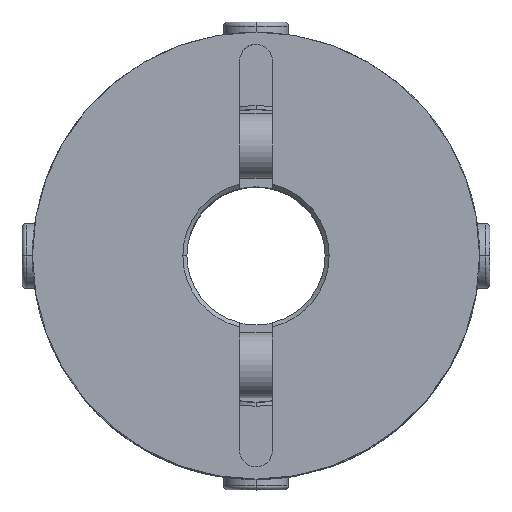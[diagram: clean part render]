
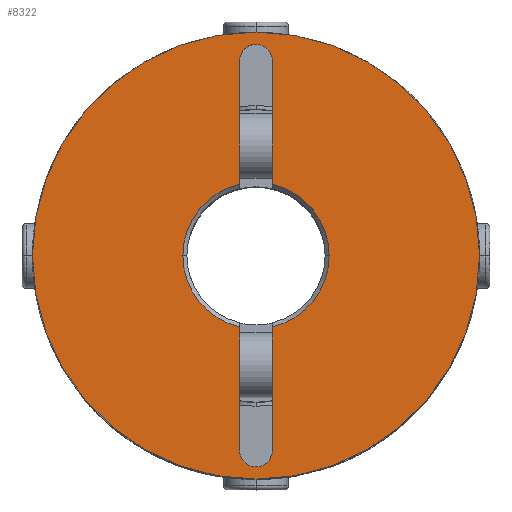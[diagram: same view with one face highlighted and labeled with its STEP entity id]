
A CAD part, top view. The second image highlights one B-rep face of the part: STEP entity #8322.
In plain terms, the highlighted planar face has unit normal (0, 0, 1).
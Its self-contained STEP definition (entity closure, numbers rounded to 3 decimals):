
#632=CARTESIAN_POINT('',(9.,0.,29.0));
#633=VERTEX_POINT('',#632);
#649=CARTESIAN_POINT('',(2.,-8.775,29.0));
#650=VERTEX_POINT('',#649);
#664=CARTESIAN_POINT('',(0.,0.0,29.0));
#665=DIRECTION('',(0.0,0.0,1.0));
#666=DIRECTION('',(-1.0,0.0,0.0));
#667=AXIS2_PLACEMENT_3D('',#664,#665,#666);
#668=CIRCLE('',#667,9.0);
#669=EDGE_CURVE('',#650,#633,#668,.T.);
#831=CARTESIAN_POINT('',(-9.,0.,29.0));
#832=VERTEX_POINT('',#831);
#839=CARTESIAN_POINT('',(-2.,-8.775,29.0));
#840=VERTEX_POINT('',#839);
#841=CARTESIAN_POINT('',(0.,0.0,29.0));
#842=DIRECTION('',(0.0,0.0,1.0));
#843=DIRECTION('',(-1.0,0.0,0.0));
#844=AXIS2_PLACEMENT_3D('',#841,#842,#843);
#845=CIRCLE('',#844,9.0);
#846=EDGE_CURVE('',#832,#840,#845,.T.);
#872=CARTESIAN_POINT('',(-1.414,25.414,29.0));
#873=VERTEX_POINT('',#872);
#889=CARTESIAN_POINT('',(2.,24.,29.0));
#890=VERTEX_POINT('',#889);
#897=CARTESIAN_POINT('',(0.,24.,29.0));
#898=DIRECTION('',(0.0,0.0,1.));
#899=DIRECTION('',(0.707,0.707,0.0));
#900=AXIS2_PLACEMENT_3D('',#897,#898,#899);
#901=CIRCLE('',#900,2.);
#902=EDGE_CURVE('',#890,#873,#901,.T.);
#914=CARTESIAN_POINT('',(1.414,-25.414,29.0));
#915=VERTEX_POINT('',#914);
#931=CARTESIAN_POINT('',(-2.,-24.,29.0));
#932=VERTEX_POINT('',#931);
#939=CARTESIAN_POINT('',(0.,-24.,29.0));
#940=DIRECTION('',(0.0,0.0,1.0));
#941=DIRECTION('',(-0.707,-0.707,0.0));
#942=AXIS2_PLACEMENT_3D('',#939,#940,#941);
#943=CIRCLE('',#942,2.0);
#944=EDGE_CURVE('',#932,#915,#943,.T.);
#1499=CARTESIAN_POINT('',(-27.5,0.,29.0));
#1500=VERTEX_POINT('',#1499);
#1507=CARTESIAN_POINT('',(27.5,0.0,29.0));
#1508=VERTEX_POINT('',#1507);
#1509=CARTESIAN_POINT('',(0.,0.0,29.0));
#1510=DIRECTION('',(0.0,0.0,-1.0));
#1511=DIRECTION('',(1.0,0.0,0.0));
#1512=AXIS2_PLACEMENT_3D('',#1509,#1510,#1511);
#1513=CIRCLE('',#1512,27.5);
#1514=EDGE_CURVE('',#1500,#1508,#1513,.T.);
#7523=CARTESIAN_POINT('',(0.,0.0,29.0));
#7524=DIRECTION('',(0.0,0.0,-1.0));
#7525=DIRECTION('',(1.0,0.0,0.0));
#7526=AXIS2_PLACEMENT_3D('',#7523,#7524,#7525);
#7527=CIRCLE('',#7526,27.5);
#7528=EDGE_CURVE('',#1508,#1500,#7527,.T.);
#8081=CARTESIAN_POINT('',(2.,-24.,29.0));
#8082=VERTEX_POINT('',#8081);
#8083=CARTESIAN_POINT('',(0.,-24.,29.0));
#8084=DIRECTION('',(0.0,0.0,1.0));
#8085=DIRECTION('',(-0.707,-0.707,0.0));
#8086=AXIS2_PLACEMENT_3D('',#8083,#8084,#8085);
#8087=CIRCLE('',#8086,2.0);
#8088=EDGE_CURVE('',#915,#8082,#8087,.T.);
#8106=CARTESIAN_POINT('',(2.,-8.775,29.0));
#8107=DIRECTION('',(0.0,-1.0,0.0));
#8108=VECTOR('',#8107,15.225);
#8109=LINE('',#8106,#8108);
#8110=EDGE_CURVE('',#650,#8082,#8109,.T.);
#8129=CARTESIAN_POINT('',(-2.,24.,29.0));
#8130=VERTEX_POINT('',#8129);
#8131=CARTESIAN_POINT('',(0.,24.,29.0));
#8132=DIRECTION('',(0.0,0.0,1.));
#8133=DIRECTION('',(0.707,0.707,0.0));
#8134=AXIS2_PLACEMENT_3D('',#8131,#8132,#8133);
#8135=CIRCLE('',#8134,2.);
#8136=EDGE_CURVE('',#873,#8130,#8135,.T.);
#8154=CARTESIAN_POINT('',(-2.,8.775,29.0));
#8155=VERTEX_POINT('',#8154);
#8156=CARTESIAN_POINT('',(-2.,8.775,29.0));
#8157=DIRECTION('',(0.0,1.0,0.0));
#8158=VECTOR('',#8157,15.225);
#8159=LINE('',#8156,#8158);
#8160=EDGE_CURVE('',#8155,#8130,#8159,.T.);
#8236=CARTESIAN_POINT('',(2.,8.775,29.0));
#8237=VERTEX_POINT('',#8236);
#8251=CARTESIAN_POINT('',(2.,24.,29.0));
#8252=DIRECTION('',(0.0,-1.0,0.0));
#8253=VECTOR('',#8252,15.225);
#8254=LINE('',#8251,#8253);
#8255=EDGE_CURVE('',#890,#8237,#8254,.T.);
#8274=CARTESIAN_POINT('',(-2.,-24.,29.0));
#8275=DIRECTION('',(0.0,1.0,0.0));
#8276=VECTOR('',#8275,15.225);
#8277=LINE('',#8274,#8276);
#8278=EDGE_CURVE('',#932,#840,#8277,.T.);
#8287=CARTESIAN_POINT('',(2.5,0.,29.0));
#8288=DIRECTION('',(0.0,0.0,1.0));
#8289=DIRECTION('',(1.0,0.0,0.0));
#8290=AXIS2_PLACEMENT_3D('',#8287,#8288,#8289);
#8291=PLANE('',#8290);
#8292=ORIENTED_EDGE('',*,*,#7528,.F.);
#8293=ORIENTED_EDGE('',*,*,#1514,.F.);
#8294=EDGE_LOOP('',(#8292,#8293));
#8295=FACE_OUTER_BOUND('',#8294,.T.);
#8296=ORIENTED_EDGE('',*,*,#8110,.T.);
#8297=ORIENTED_EDGE('',*,*,#8088,.F.);
#8298=ORIENTED_EDGE('',*,*,#944,.F.);
#8299=ORIENTED_EDGE('',*,*,#8278,.T.);
#8300=ORIENTED_EDGE('',*,*,#846,.F.);
#8301=CARTESIAN_POINT('',(0.,0.0,29.0));
#8302=DIRECTION('',(0.0,0.0,1.0));
#8303=DIRECTION('',(-1.0,0.0,0.0));
#8304=AXIS2_PLACEMENT_3D('',#8301,#8302,#8303);
#8305=CIRCLE('',#8304,9.0);
#8306=EDGE_CURVE('',#8155,#832,#8305,.T.);
#8307=ORIENTED_EDGE('',*,*,#8306,.F.);
#8308=ORIENTED_EDGE('',*,*,#8160,.T.);
#8309=ORIENTED_EDGE('',*,*,#8136,.F.);
#8310=ORIENTED_EDGE('',*,*,#902,.F.);
#8311=ORIENTED_EDGE('',*,*,#8255,.T.);
#8312=CARTESIAN_POINT('',(0.,0.0,29.0));
#8313=DIRECTION('',(0.0,0.0,1.0));
#8314=DIRECTION('',(-1.0,0.0,0.0));
#8315=AXIS2_PLACEMENT_3D('',#8312,#8313,#8314);
#8316=CIRCLE('',#8315,9.0);
#8317=EDGE_CURVE('',#633,#8237,#8316,.T.);
#8318=ORIENTED_EDGE('',*,*,#8317,.F.);
#8319=ORIENTED_EDGE('',*,*,#669,.F.);
#8320=EDGE_LOOP('',(#8296,#8297,#8298,#8299,#8300,#8307,#8308,#8309,#8310,#8311,#8318,#8319));
#8321=FACE_BOUND('',#8320,.T.);
#8322=ADVANCED_FACE('',(#8295,#8321),#8291,.T.);
